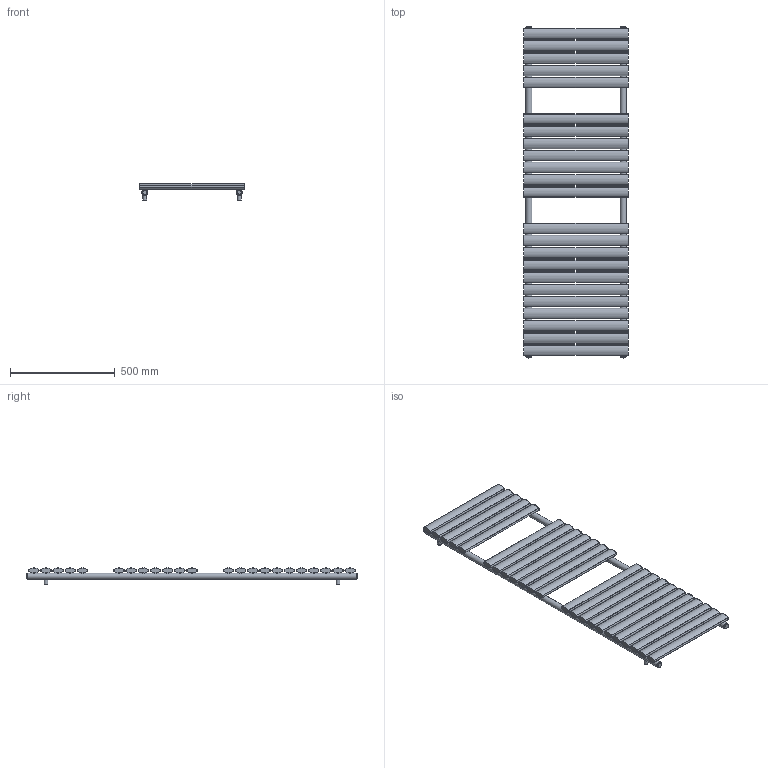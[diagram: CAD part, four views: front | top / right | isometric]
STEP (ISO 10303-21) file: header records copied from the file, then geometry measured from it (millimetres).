
FILE_DESCRIPTION(/* description */ (''),/* implementation_level */ '2;1');
FILE_NAME(/* name */ 'C:\Grzejniki\13DLUXRAD\łazienkowe\NEO\NEO 1570x500.iam.stp',/* time_stamp */ '2016-06-28T17:35:30+02:00',/* author */ ('m.szydziak'),/* organization */ (''),/* preprocessor_version */ 'ST-DEVELOPER v16.5',/* originating_system */ 'Autodesk Inventor 2017',/* authorisation */ '');
FILE_SCHEMA (('AUTOMOTIVE_DESIGN { 1 0 10303 214 3 1 1 }'));
Length unit declared in the file: millimetre
Products named in the file (6): NEO 1570x500; fi30x1,5x1570v2; 50x25x1,2x500; zaślepka fi30 G0,5inch; uchwyt stały; korek
Assembly tree (37 placements, depth 2):
  NEO 1570x500
    fi30x1,5x1570v2  x2
    50x25x1,2x500  x23
    zaślepka fi30 G0,5inch  x4
    uchwyt stały  x4
    korek  x4
Bounding box: 500 x 1582 x 76.86 mm (x, y, z)
Volume: 2093761.4 mm3; surface area: 3339270.4 mm2
Topology: 37 solids, 37 shells, 468 faces, 1232 edges, 884 vertices
Faces by surface type: cylinder 300, plane 168
Full cylindrical faces by diameter (mm): 5 x46, 5.8 x46, 15 x4, 18 x4, 18.631 x4, 24 x4, 27 x6, 30 x2
Entity records: 4015 total; most frequent: CARTESIAN_POINT 2083, DIRECTION 328, ORIENTED_EDGE 296, EDGE_LOOP 152, EDGE_CURVE 148, AXIS2_PLACEMENT_3D 148, VERTEX_POINT 128, FACE_BOUND 88
